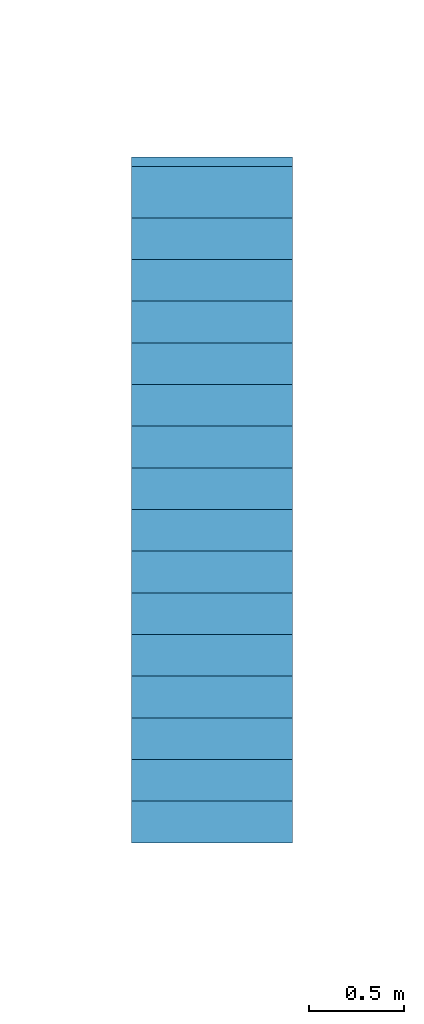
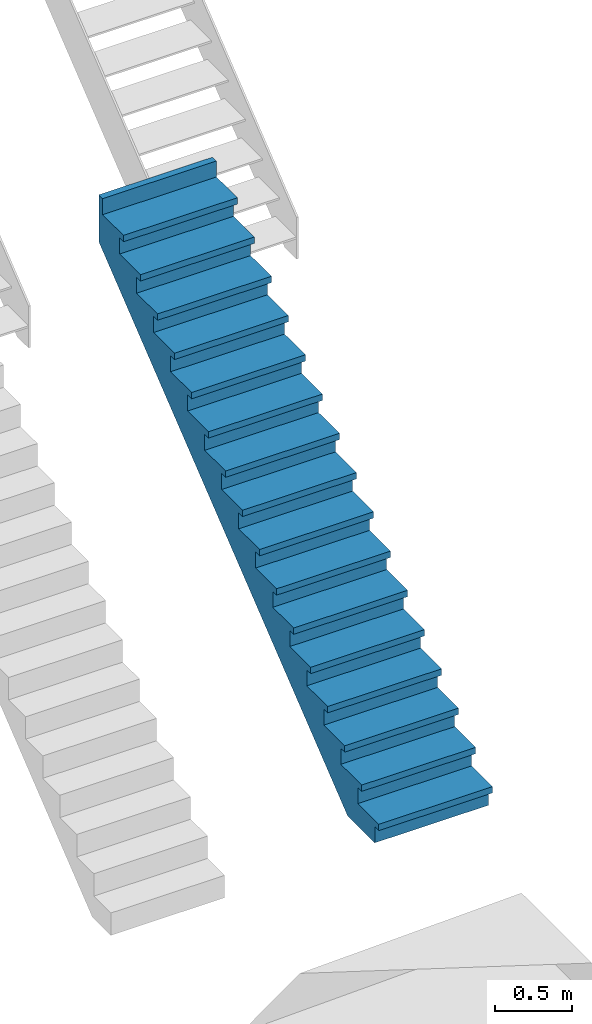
# One storey, part 9 of 13: 1 stair flight, 1 element without a shape of its own.
"""IFC2X3 building model written with IfcOpenShell, lengths in millimetres."""

import ifcopenshell
import ifcopenshell.guid

model = None  # the IFC model being written
_history = None  # IfcOwnerHistory: only IFC2X3 demands one
_inside = {}  # id of a spatial element -> (the spatial element, [elements in it])
_under = {}  # id of a project, library or spatial element -> (it, [spatial elements below it])
_declared = {}  # id of a project -> (the project, [libraries it declares])
_typed = {}  # id of a type object -> (the type object, [elements of that type])
_made_of = {}  # id of a material, layer set ... -> (it, [elements and type objects made of it])


def new_model(schema):
    """Start an empty IFC model of exactly this schema.

    Asked for "IFC4X3", IfcOpenShell would pick the latest addendum, in which some entities
    have other attributes; the version numbers below select the first issue.
    IFC2X3 requires an IfcOwnerHistory on every rooted entity: one is made here for all.
    """
    global model, _history
    if schema == "IFC4X3":
        model = ifcopenshell.file(schema_version=(4, 3, 0, 0))
    else:
        model = ifcopenshell.file(schema=schema)
    _inside.clear()
    _under.clear()
    _declared.clear()
    _typed.clear()
    _made_of.clear()
    _history = None
    if model.schema == "IFC2X3":
        org = make("IfcOrganization", Name="unknown")
        user = make(
            "IfcPersonAndOrganization",
            ThePerson=make("IfcPerson", FamilyName="unknown"),
            TheOrganization=org,
        )
        app = make(
            "IfcApplication",
            ApplicationDeveloper=org,
            Version="unknown",
            ApplicationFullName="unknown",
            ApplicationIdentifier="unknown",
        )
        _history = make(
            "IfcOwnerHistory",
            OwningUser=user,
            OwningApplication=app,
            ChangeAction="ADDED",
            CreationDate=0,
        )
    return model


def make(cls, **values):
    """One entity of the class cls with the attributes given. An attribute that is None is left unset."""
    return model.create_entity(
        cls, **{name: value for name, value in values.items() if value is not None}
    )


def entity(cls, *values):
    """Any entity or typed value of the class cls, its attributes in the order of the schema. None: left unset."""
    e = model.create_entity(cls)
    for i, value in enumerate(values):
        if value is not None:
            e[i] = value
    return e


def rooted(cls, **values):
    """An entity with a GlobalId (a new one), such as an element, a storey or a relation."""
    return make(cls, GlobalId=ifcopenshell.guid.new(), OwnerHistory=_history, **values)


def si_unit(unit_type, name, prefix=None):
    """IfcSIUnit, for example si_unit("LENGTHUNIT", "METRE", prefix="MILLI")."""
    return make("IfcSIUnit", UnitType=unit_type, Prefix=prefix, Name=name)


def converted_unit(unit_type, name, factor, base, dimensions=None, offset=None):
    """IfcConversionBasedUnit, such as the inch: factor (a typed value) times the base unit."""
    return make(
        "IfcConversionBasedUnit"
        if offset is None
        else "IfcConversionBasedUnitWithOffset",
        ConversionOffset=offset,
        Dimensions=None
        if dimensions is None
        else entity("IfcDimensionalExponents", *dimensions),
        UnitType=unit_type,
        Name=name,
        ConversionFactor=make(
            "IfcMeasureWithUnit", ValueComponent=factor, UnitComponent=base
        ),
    )


def derived_unit(unit_type, elements):
    """IfcDerivedUnit: a product of units, each with its exponent."""
    return make(
        "IfcDerivedUnit",
        Elements=[
            make("IfcDerivedUnitElement", Unit=unit, Exponent=power)
            for unit, power in elements
        ],
        UnitType=unit_type,
    )


def assignment(units):
    """IfcUnitAssignment: the units of a project."""
    return None if units is None else make("IfcUnitAssignment", Units=units)


def point(xyz):
    """IfcCartesianPoint."""
    return None if xyz is None else make("IfcCartesianPoint", Coordinates=xyz)


def direction(xyz):
    """IfcDirection."""
    return None if xyz is None else make("IfcDirection", DirectionRatios=xyz)


def frame(location, z_axis=None, x_axis=None):
    """IfcAxis2Placement3D, a coordinate frame: its origin and axes. An axis left out is left unset."""
    return make(
        "IfcAxis2Placement3D",
        Location=point(location),
        Axis=direction(z_axis),
        RefDirection=direction(x_axis),
    )


def origin():
    """The frame at (0, 0, 0) with its axes left unset."""
    return frame((0.0, 0.0, 0.0))


def place(relative_to, where):
    """IfcLocalPlacement: puts the frame where relative to a parent placement (None: the world)."""
    return make(
        "IfcLocalPlacement", PlacementRelTo=relative_to, RelativePlacement=where
    )


def context(
    kind, dimensions, precision=None, world=None, true_north=None, identifier=None
):
    """IfcGeometricRepresentationContext, for example the 3D "Model" context."""
    return make(
        "IfcGeometricRepresentationContext",
        ContextIdentifier=identifier,
        ContextType=kind,
        CoordinateSpaceDimension=dimensions,
        Precision=precision,
        WorldCoordinateSystem=world,
        TrueNorth=true_north,
    )


def subcontext(parent, identifier, kind, view, scale=None):
    """IfcGeometricRepresentationSubContext, for example "Body" below "Model"."""
    return make(
        "IfcGeometricRepresentationSubContext",
        ContextIdentifier=identifier,
        ContextType=kind,
        ParentContext=parent,
        TargetScale=scale,
        TargetView=view,
    )


def project(units=None, contexts=None):
    """IfcProject with its units and contexts."""
    return rooted(
        "IfcProject",
        Name="project",
        RepresentationContexts=contexts,
        UnitsInContext=assignment(units),
    )


def spatial(cls, under=None, at=None, **own):
    """A site, building, storey or space (cls), placed at a placement, below another one or the project."""
    s = rooted(cls, ObjectPlacement=at, **own)
    if under is not None:
        _under.setdefault(under.id(), (under, []))[1].append(s)
    return s


def faces_of(points, faces, orient=None, outer=None):
    """IfcFace entities. A face is a list of loops; a loop is a list of indices into points, from 0.

    orient and outer hold one flag for each loop. By default every Orientation is true, the
    first loop of a face is its IfcFaceOuterBound and the others are IfcFaceBound.
    """
    made = []
    for i, loops in enumerate(faces):
        bounds = []
        for j, loop in enumerate(loops):
            is_outer = j == 0 if outer is None else outer[i][j]
            bounds.append(
                make(
                    "IfcFaceOuterBound" if is_outer else "IfcFaceBound",
                    Bound=make("IfcPolyLoop", Polygon=[points[k] for k in loop]),
                    Orientation=True if orient is None else orient[i][j],
                )
            )
        made.append(make("IfcFace", Bounds=bounds))
    return made


def faceted_brep(points, faces, orient=None, outer=None, voids=None):
    """IfcFacetedBrep: a solid bounded by flat faces; with voids (closed shells), ...WithVoids."""
    shared = [point(p) for p in points]
    hull = make("IfcClosedShell", CfsFaces=faces_of(shared, faces, orient, outer))
    if voids is None:
        return make("IfcFacetedBrep", Outer=hull)
    return make(
        "IfcFacetedBrepWithVoids",
        Outer=hull,
        Voids=[
            make(cls, CfsFaces=faces_of(shared, fs, o, b)) for cls, fs, o, b in voids
        ],
    )


def shape(context_of_items, identifier, shape_type, items):
    """IfcShapeRepresentation: the items that make up one representation, for example the "Body"."""
    return make(
        "IfcShapeRepresentation",
        ContextOfItems=context_of_items,
        RepresentationIdentifier=identifier,
        RepresentationType=shape_type,
        Items=items,
    )


def material(Name=None, Category=None):
    """IfcMaterial."""
    return make("IfcMaterial", Name=Name, Category=Category)


def made_of(thing, what):
    """Note that an element or type object is made of a material, layer set ...; save() writes the relation."""
    if what is not None:
        _made_of.setdefault(what.id(), (what, []))[1].append(thing)
    return thing


def element(
    cls,
    number,
    at=None,
    inside=None,
    cuts=None,
    type_object=None,
    material=None,
    context=None,
    identifier="Body",
    shape_type=None,
    held_by="IfcProductDefinitionShape",
    body=None,
    shapes=None,
    **own,
):
    """One element of the class cls, such as IfcWall. Its Tag is "e" and its number.

    at: its placement. inside: the storey or other place that contains it. cuts: it is an
    opening in that element (IfcRelVoidsElement). A single representation is given by context,
    identifier, shape_type and body (its items); several are given by shapes. held_by: the class
    of the entity that holds the representations. save() writes the other relations.
    """
    e = rooted(cls, Tag="e%d" % number, ObjectPlacement=at, **own)
    if body is not None:
        shapes = [shape(context, identifier, shape_type, body)]
    if shapes is not None:
        e.Representation = make(held_by, Representations=shapes)
    if inside is not None:
        _inside.setdefault(inside.id(), (inside, []))[1].append(e)
    if cuts is not None:
        rooted(
            "IfcRelVoidsElement", RelatingBuildingElement=cuts, RelatedOpeningElement=e
        )
    if type_object is not None:
        _typed.setdefault(type_object.id(), (type_object, []))[1].append(e)
    return made_of(e, material)


def aggregate(whole, parts):
    """IfcRelAggregates: a whole, such as a stair, and the parts it consists of."""
    return rooted("IfcRelAggregates", RelatingObject=whole, RelatedObjects=parts)


def save(model, path):
    """Write the relations noted so far, then the file.

    IfcRelAggregates (storeys below a building ...), IfcRelContainedInSpatialStructure (elements
    in a storey), IfcRelDefinesByType, IfcRelAssociatesMaterial and IfcRelDeclares: one each for
    every whole, place, type object, material and project.
    """
    for whole, parts in _under.values():
        aggregate(whole, parts)
    for where, things in _inside.values():
        rooted(
            "IfcRelContainedInSpatialStructure",
            RelatedElements=things,
            RelatingStructure=where,
        )
    for kind, things in _typed.values():
        rooted("IfcRelDefinesByType", RelatedObjects=things, RelatingType=kind)
    for what, things in _made_of.values():
        rooted("IfcRelAssociatesMaterial", RelatedObjects=things, RelatingMaterial=what)
    for by, libraries in _declared.values():
        rooted("IfcRelDeclares", RelatingContext=by, RelatedDefinitions=libraries)
    model.write(path)


model = new_model("IFC2X3")

# Units and contexts
model_context = context("Model", 3, precision=0.01, world=origin(), true_north=direction((6.12303176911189e-17, 1.0)))
body_context = subcontext(model_context, "Body", "Model", "MODEL_VIEW")
ifc_project = project(units=[si_unit("LENGTHUNIT", "METRE", prefix="MILLI"), si_unit("AREAUNIT", "SQUARE_METRE"), si_unit("VOLUMEUNIT", "CUBIC_METRE"), converted_unit("PLANEANGLEUNIT", "DEGREE", entity("IfcRatioMeasure", 0.0174532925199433), si_unit("PLANEANGLEUNIT", "RADIAN"), dimensions=[0, 0, 0, 0, 0, 0, 0]), si_unit("MASSUNIT", "GRAM", prefix="KILO"), si_unit("TIMEUNIT", "SECOND"), si_unit("FREQUENCYUNIT", "HERTZ"), si_unit("THERMODYNAMICTEMPERATUREUNIT", "KELVIN"), derived_unit("THERMALTRANSMITTANCEUNIT", [(si_unit("MASSUNIT", "GRAM", prefix="KILO"), 1), (si_unit("THERMODYNAMICTEMPERATUREUNIT", "KELVIN"), -1), (si_unit("TIMEUNIT", "SECOND"), -3)]), derived_unit("VOLUMETRICFLOWRATEUNIT", [(si_unit("LENGTHUNIT", "METRE"), 3), (si_unit("TIMEUNIT", "SECOND"), -1)]), si_unit("ELECTRICCURRENTUNIT", "AMPERE"), si_unit("ELECTRICVOLTAGEUNIT", "VOLT"), si_unit("POWERUNIT", "WATT")], contexts=[model_context])

# Site, building, storey
site_placement = place(None, origin())
site = spatial("IfcSite", under=ifc_project, at=site_placement, Name="Surface", CompositionType="ELEMENT")
building_placement = place(site_placement, origin())
building = spatial("IfcBuilding", under=site, at=building_placement, CompositionType="ELEMENT")
storey_placement = place(building_placement, origin())
storey = spatial("IfcBuildingStorey", under=building, at=storey_placement, Name="00_begane grond", CompositionType="ELEMENT", Elevation=0.0)

# Stair, stair flight
stair_placement = place(storey_placement, origin())
stair = element("IfcStair", 1, at=stair_placement, inside=storey, Name="Precast Stair:Stair", ShapeType="NOTDEFINED")
ifc_material = material(Name="24_beton_prefab_generiek")
stair_flight_placement = place(stair_placement, frame((27349.8089026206, -31324.6322235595, 0.0)))
stair_flight = element("IfcStairFlight", 2, at=stair_flight_placement, material=ifc_material, Name="Precast Stair:Stair:69326 Run 1", ObjectType="Precast Stair:24_ST_trap_beton_prefab_monolitisch_850_220_185", NumberOfRiser=17, NumberOfTreads=16, RiserHeight=0.578971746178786, TreadLength=0.721784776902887, context=body_context, shape_type="Brep", body=[
    faceted_brep([(0.0, 270.0, 176.470588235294), (0.0, 0.0, 176.470588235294), (850.0, 0.0, 176.470588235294), (850.0, 270.0, 176.470588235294), (850.0, 0.0, 126.470588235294), (0.0, 0.0, 126.470588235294), (0.0, 50.0, 126.470588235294), (850.0, 50.0, 126.470588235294), (850.0, 50.0, 0.0), (850.0, 100.0, 0.0), (850.0, 100.0, 126.470588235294), (850.0, 320.0, 126.470588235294), (850.0, 320.0, 302.941176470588), (850.0, 540.0, 302.941176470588), (850.0, 540.0, 479.411764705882), (850.0, 760.0, 479.411764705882), (850.0, 760.0, 655.882352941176), (850.0, 980.0, 655.882352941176), (850.0, 980.0, 832.35294117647), (850.0, 1200.0, 832.35294117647), (850.0, 1200.0, 1008.82352941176), (850.0, 1420.0, 1008.82352941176), (850.0, 1420.0, 1185.29411764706), (850.0, 1640.0, 1185.29411764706), (850.0, 1640.0, 1361.76470588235), (850.0, 1860.0, 1361.76470588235), (850.0, 1860.0, 1538.23529411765), (850.0, 2080.0, 1538.23529411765), (850.0, 2080.0, 1714.70588235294), (850.0, 2300.0, 1714.70588235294), (850.0, 2300.0, 1891.17647058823), (850.0, 2520.0, 1891.17647058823), (850.0, 2520.0, 2067.64705882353), (850.0, 2740.0, 2067.64705882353), (850.0, 2740.0, 2244.11764705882), (850.0, 2960.0, 2244.11764705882), (850.0, 2960.0, 2420.58823529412), (850.0, 3180.0, 2420.58823529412), (850.0, 3180.0, 2597.05882352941), (850.0, 3400.0, 2597.05882352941), (850.0, 3400.0, 2773.5294117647), (850.0, 3620.0, 2773.5294117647), (850.0, 3620.0, 2950.0), (850.0, 3570.0, 2950.0), (850.0, 3570.0, 2823.5294117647), (850.0, 3300.0, 2823.5294117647), (850.0, 3300.0, 2773.5294117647), (850.0, 3350.0, 2773.5294117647), (850.0, 3350.0, 2647.05882352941), (850.0, 3080.0, 2647.05882352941), (850.0, 3080.0, 2597.05882352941), (850.0, 3130.0, 2597.05882352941), (850.0, 3130.0, 2470.58823529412), (850.0, 2860.0, 2470.58823529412), (850.0, 2860.0, 2420.58823529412), (850.0, 2910.0, 2420.58823529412), (850.0, 2910.0, 2294.11764705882), (850.0, 2640.0, 2294.11764705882), (850.0, 2640.0, 2244.11764705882), (850.0, 2690.0, 2244.11764705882), (850.0, 2690.0, 2117.64705882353), (850.0, 2420.0, 2117.64705882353), (850.0, 2420.0, 2067.64705882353), (850.0, 2470.0, 2067.64705882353), (850.0, 2470.0, 1941.17647058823), (850.0, 2200.0, 1941.17647058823), (850.0, 2200.0, 1891.17647058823), (850.0, 2250.0, 1891.17647058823), (850.0, 2250.0, 1764.70588235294), (850.0, 1980.0, 1764.70588235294), (850.0, 1980.0, 1714.70588235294), (850.0, 2030.0, 1714.70588235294), (850.0, 2030.0, 1588.23529411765), (850.0, 1760.0, 1588.23529411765), (850.0, 1760.0, 1538.23529411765), (850.0, 1810.0, 1538.23529411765), (850.0, 1810.0, 1411.76470588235), (850.0, 1540.0, 1411.76470588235), (850.0, 1540.0, 1361.76470588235), (850.0, 1590.0, 1361.76470588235), (850.0, 1590.0, 1235.29411764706), (850.0, 1320.0, 1235.29411764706), (850.0, 1320.0, 1185.29411764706), (850.0, 1370.0, 1185.29411764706), (850.0, 1370.0, 1058.82352941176), (850.0, 1100.0, 1058.82352941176), (850.0, 1100.0, 1008.82352941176), (850.0, 1150.0, 1008.82352941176), (850.0, 1150.0, 882.35294117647), (850.0, 880.0, 882.35294117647), (850.0, 880.0, 832.35294117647), (850.0, 930.0, 832.35294117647), (850.0, 930.0, 705.882352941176), (850.0, 660.0, 705.882352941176), (850.0, 660.0, 655.882352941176), (850.0, 710.0, 655.882352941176), (850.0, 710.0, 529.411764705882), (850.0, 440.0, 529.411764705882), (850.0, 440.0, 479.411764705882), (850.0, 490.0, 479.411764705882), (850.0, 490.0, 352.941176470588), (850.0, 220.0, 352.941176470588), (850.0, 220.0, 302.941176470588), (850.0, 270.0, 302.941176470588), (0.0, 50.0, 0.0), (0.0, 270.0, 302.941176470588), (0.0, 220.0, 302.941176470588), (0.0, 220.0, 352.941176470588), (0.0, 490.0, 352.941176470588), (0.0, 490.0, 479.411764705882), (0.0, 440.0, 479.411764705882), (0.0, 440.0, 529.411764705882), (0.0, 710.0, 529.411764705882), (0.0, 710.0, 655.882352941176), (0.0, 660.0, 655.882352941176), (0.0, 660.0, 705.882352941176), (0.0, 930.0, 705.882352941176), (0.0, 930.0, 832.35294117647), (0.0, 880.0, 832.35294117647), (0.0, 880.0, 882.35294117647), (0.0, 1150.0, 882.35294117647), (0.0, 1150.0, 1008.82352941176), (0.0, 1100.0, 1008.82352941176), (0.0, 1100.0, 1058.82352941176), (0.0, 1370.0, 1058.82352941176), (0.0, 1370.0, 1185.29411764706), (0.0, 1320.0, 1185.29411764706), (0.0, 1320.0, 1235.29411764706), (0.0, 1590.0, 1235.29411764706), (0.0, 1590.0, 1361.76470588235), (0.0, 1540.0, 1361.76470588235), (0.0, 1540.0, 1411.76470588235), (0.0, 1810.0, 1411.76470588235), (0.0, 1810.0, 1538.23529411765), (0.0, 1760.0, 1538.23529411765), (0.0, 1760.0, 1588.23529411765), (0.0, 2030.0, 1588.23529411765), (0.0, 2030.0, 1714.70588235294), (0.0, 1980.0, 1714.70588235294), (0.0, 1980.0, 1764.70588235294), (0.0, 2250.0, 1764.70588235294), (0.0, 2250.0, 1891.17647058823), (0.0, 2200.0, 1891.17647058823), (0.0, 2200.0, 1941.17647058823), (0.0, 2470.0, 1941.17647058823), (0.0, 2470.0, 2067.64705882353), (0.0, 2420.0, 2067.64705882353), (0.0, 2420.0, 2117.64705882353), (0.0, 2690.0, 2117.64705882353), (0.0, 2690.0, 2244.11764705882), (0.0, 2640.0, 2244.11764705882), (0.0, 2640.0, 2294.11764705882), (0.0, 2910.0, 2294.11764705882), (0.0, 2910.0, 2420.58823529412), (0.0, 2860.0, 2420.58823529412), (0.0, 2860.0, 2470.58823529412), (0.0, 3130.0, 2470.58823529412), (0.0, 3130.0, 2597.05882352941), (0.0, 3080.0, 2597.05882352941), (0.0, 3080.0, 2647.05882352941), (0.0, 3350.0, 2647.05882352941), (0.0, 3350.0, 2773.5294117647), (0.0, 3300.0, 2773.5294117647), (0.0, 3300.0, 2823.5294117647), (0.0, 3570.0, 2823.5294117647), (0.0, 3570.0, 2950.0), (0.0, 3620.0, 2950.0), (0.0, 3620.0, 2773.5294117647), (0.0, 3400.0, 2773.5294117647), (0.0, 3400.0, 2597.05882352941), (0.0, 3180.0, 2597.05882352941), (0.0, 3180.0, 2420.58823529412), (0.0, 2960.0, 2420.58823529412), (0.0, 2960.0, 2244.11764705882), (0.0, 2740.0, 2244.11764705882), (0.0, 2740.0, 2067.64705882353), (0.0, 2520.0, 2067.64705882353), (0.0, 2520.0, 1891.17647058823), (0.0, 2300.0, 1891.17647058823), (0.0, 2300.0, 1714.70588235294), (0.0, 2080.0, 1714.70588235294), (0.0, 2080.0, 1538.23529411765), (0.0, 1860.0, 1538.23529411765), (0.0, 1860.0, 1361.76470588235), (0.0, 1640.0, 1361.76470588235), (0.0, 1640.0, 1185.29411764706), (0.0, 1420.0, 1185.29411764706), (0.0, 1420.0, 1008.82352941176), (0.0, 1200.0, 1008.82352941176), (0.0, 1200.0, 832.35294117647), (0.0, 980.0, 832.35294117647), (0.0, 980.0, 655.882352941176), (0.0, 760.0, 655.882352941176), (0.0, 760.0, 479.411764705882), (0.0, 540.0, 479.411764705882), (0.0, 540.0, 302.941176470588), (0.0, 320.0, 302.941176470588), (0.0, 320.0, 126.470588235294), (0.0, 100.0, 126.470588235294), (0.0, 100.0, 0.0)], [[[0, 1, 2, 3]], [[4, 5, 6, 7]], [[2, 1, 5, 4]], [[7, 8, 9, 10, 11, 12, 13, 14, 15, 16, 17, 18, 19, 20, 21, 22, 23, 24, 25, 26, 27, 28, 29, 30, 31, 32, 33, 34, 35, 36, 37, 38, 39, 40, 41, 42, 43, 44, 45, 46, 47, 48, 49, 50, 51, 52, 53, 54, 55, 56, 57, 58, 59, 60, 61, 62, 63, 64, 65, 66, 67, 68, 69, 70, 71, 72, 73, 74, 75, 76, 77, 78, 79, 80, 81, 82, 83, 84, 85, 86, 87, 88, 89, 90, 91, 92, 93, 94, 95, 96, 97, 98, 99, 100, 101, 102, 103, 3, 2, 4]], [[104, 6, 5, 1, 0, 105, 106, 107, 108, 109, 110, 111, 112, 113, 114, 115, 116, 117, 118, 119, 120, 121, 122, 123, 124, 125, 126, 127, 128, 129, 130, 131, 132, 133, 134, 135, 136, 137, 138, 139, 140, 141, 142, 143, 144, 145, 146, 147, 148, 149, 150, 151, 152, 153, 154, 155, 156, 157, 158, 159, 160, 161, 162, 163, 164, 165, 166, 167, 168, 169, 170, 171, 172, 173, 174, 175, 176, 177, 178, 179, 180, 181, 182, 183, 184, 185, 186, 187, 188, 189, 190, 191, 192, 193, 194, 195, 196, 197, 198, 199]], [[8, 7, 6, 104]], [[9, 8, 104, 199]], [[10, 9, 199, 198]], [[108, 107, 101, 100]], [[102, 106, 105, 103]], [[101, 107, 106, 102]], [[105, 0, 3, 103]], [[12, 11, 197, 196]], [[112, 111, 97, 96]], [[98, 110, 109, 99]], [[97, 111, 110, 98]], [[109, 108, 100, 99]], [[14, 13, 195, 194]], [[116, 115, 93, 92]], [[94, 114, 113, 95]], [[93, 115, 114, 94]], [[113, 112, 96, 95]], [[16, 15, 193, 192]], [[120, 119, 89, 88]], [[90, 118, 117, 91]], [[89, 119, 118, 90]], [[117, 116, 92, 91]], [[18, 17, 191, 190]], [[124, 123, 85, 84]], [[86, 122, 121, 87]], [[85, 123, 122, 86]], [[121, 120, 88, 87]], [[20, 19, 189, 188]], [[128, 127, 81, 80]], [[82, 126, 125, 83]], [[81, 127, 126, 82]], [[125, 124, 84, 83]], [[22, 21, 187, 186]], [[132, 131, 77, 76]], [[78, 130, 129, 79]], [[77, 131, 130, 78]], [[129, 128, 80, 79]], [[24, 23, 185, 184]], [[136, 135, 73, 72]], [[74, 134, 133, 75]], [[73, 135, 134, 74]], [[133, 132, 76, 75]], [[26, 25, 183, 182]], [[140, 139, 69, 68]], [[70, 138, 137, 71]], [[69, 139, 138, 70]], [[137, 136, 72, 71]], [[28, 27, 181, 180]], [[144, 143, 65, 64]], [[66, 142, 141, 67]], [[65, 143, 142, 66]], [[141, 140, 68, 67]], [[30, 29, 179, 178]], [[148, 147, 61, 60]], [[62, 146, 145, 63]], [[61, 147, 146, 62]], [[145, 144, 64, 63]], [[32, 31, 177, 176]], [[152, 151, 57, 56]], [[58, 150, 149, 59]], [[57, 151, 150, 58]], [[149, 148, 60, 59]], [[34, 33, 175, 174]], [[156, 155, 53, 52]], [[54, 154, 153, 55]], [[53, 155, 154, 54]], [[153, 152, 56, 55]], [[36, 35, 173, 172]], [[160, 159, 49, 48]], [[50, 158, 157, 51]], [[49, 159, 158, 50]], [[157, 156, 52, 51]], [[38, 37, 171, 170]], [[164, 163, 45, 44]], [[45, 163, 162, 46]], [[161, 160, 48, 47]], [[40, 39, 169, 168]], [[43, 165, 164, 44]], [[41, 40, 168, 167]], [[42, 41, 167, 166]], [[43, 42, 166, 165]], [[46, 162, 161, 47]], [[38, 170, 169, 39]], [[36, 172, 171, 37]], [[34, 174, 173, 35]], [[32, 176, 175, 33]], [[30, 178, 177, 31]], [[28, 180, 179, 29]], [[26, 182, 181, 27]], [[24, 184, 183, 25]], [[22, 186, 185, 23]], [[20, 188, 187, 21]], [[18, 190, 189, 19]], [[16, 192, 191, 17]], [[14, 194, 193, 15]], [[12, 196, 195, 13]], [[10, 198, 197, 11]]]),
    faceted_brep([(0.0, 320.0, 126.470588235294), (0.0, 100.0, 126.470588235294), (850.0, 100.0, 126.470588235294), (850.0, 320.0, 126.470588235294), (0.0, 320.0, 0.0), (0.0, 100.0, 0.0), (850.0, 100.0, 0.0), (850.0, 320.0, 0.0), (0.0, 540.0, 302.941176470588), (0.0, 320.0, 302.941176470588), (850.0, 320.0, 302.941176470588), (850.0, 540.0, 302.941176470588), (0.0, 540.0, 110.646849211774), (0.0, 402.060261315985, 0.0), (850.0, 402.060261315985, 0.0), (850.0, 540.0, 110.646849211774), (0.0, 760.0, 479.411764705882), (0.0, 540.0, 479.411764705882), (850.0, 540.0, 479.411764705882), (850.0, 760.0, 479.411764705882), (0.0, 760.0, 287.117437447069), (850.0, 760.0, 287.117437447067), (0.0, 980.0, 655.882352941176), (0.0, 760.0, 655.882352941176), (850.0, 760.0, 655.882352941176), (850.0, 980.0, 655.882352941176), (0.0, 980.0, 463.58802568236), (850.0, 980.0, 463.588025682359), (0.0, 1200.0, 832.35294117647), (0.0, 980.0, 832.35294117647), (850.0, 980.0, 832.35294117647), (850.0, 1200.0, 832.35294117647), (0.0, 1200.0, 640.058613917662), (850.0, 1200.0, 640.058613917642), (0.0, 1420.0, 1008.82352941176), (0.0, 1200.0, 1008.82352941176), (850.0, 1200.0, 1008.82352941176), (850.0, 1420.0, 1008.82352941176), (0.0, 1420.0, 816.529202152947), (850.0, 1420.0, 816.529202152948), (0.0, 1640.0, 1185.29411764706), (0.0, 1420.0, 1185.29411764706), (850.0, 1420.0, 1185.29411764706), (850.0, 1640.0, 1185.29411764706), (0.0, 1640.0, 992.999790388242), (850.0, 1640.0, 992.99979038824), (0.0, 1860.0, 1361.76470588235), (0.0, 1640.0, 1361.76470588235), (850.0, 1640.0, 1361.76470588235), (850.0, 1860.0, 1361.76470588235), (0.0, 1860.0, 1169.47037862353), (850.0, 1860.0, 1169.47037862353), (0.0, 2080.0, 1538.23529411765), (0.0, 1860.0, 1538.23529411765), (850.0, 1860.0, 1538.23529411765), (850.0, 2080.0, 1538.23529411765), (0.0, 2080.0, 1345.94096685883), (850.0, 2080.0, 1345.94096685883), (0.0, 2300.0, 1714.70588235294), (0.0, 2080.0, 1714.70588235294), (850.0, 2080.0, 1714.70588235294), (850.0, 2300.0, 1714.70588235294), (0.0, 2300.0, 1522.41155509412), (850.0, 2300.0, 1522.41155509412), (0.0, 2520.0, 1891.17647058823), (0.0, 2300.0, 1891.17647058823), (850.0, 2300.0, 1891.17647058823), (850.0, 2520.0, 1891.17647058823), (0.0, 2520.0, 1698.88214332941), (850.0, 2520.0, 1698.88214332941), (0.0, 2740.0, 2067.64705882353), (0.0, 2520.0, 2067.64705882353), (850.0, 2520.0, 2067.64705882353), (850.0, 2740.0, 2067.64705882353), (0.0, 2740.0, 1875.35273156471), (850.0, 2740.0, 1875.35273156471), (0.0, 2960.0, 2244.11764705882), (0.0, 2740.0, 2244.11764705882), (850.0, 2740.0, 2244.11764705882), (850.0, 2960.0, 2244.11764705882), (0.0, 2960.0, 2051.8233198), (850.0, 2960.0, 2051.8233198), (0.0, 3180.0, 2420.58823529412), (0.0, 2960.0, 2420.58823529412), (850.0, 2960.0, 2420.58823529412), (850.0, 3180.0, 2420.58823529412), (0.0, 3180.0, 2228.2939080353), (850.0, 3180.0, 2228.29390803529), (0.0, 3400.0, 2597.05882352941), (0.0, 3180.0, 2597.05882352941), (850.0, 3180.0, 2597.05882352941), (850.0, 3400.0, 2597.05882352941), (0.0, 3400.0, 2404.76449627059), (850.0, 3400.0, 2404.76449627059), (0.0, 3620.0, 2773.5294117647), (0.0, 3400.0, 2773.5294117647), (850.0, 3400.0, 2773.5294117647), (850.0, 3620.0, 2773.5294117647), (0.0, 3620.0, 2581.23508450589), (850.0, 3620.0, 2581.23508450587)], [[[0, 1, 2, 3]], [[1, 0, 4, 5]], [[2, 1, 5, 6]], [[3, 2, 6, 7]], [[8, 9, 10, 11]], [[4, 0, 9, 8, 12, 13]], [[0, 3, 10, 9]], [[3, 7, 14, 15, 11, 10]], [[16, 17, 18, 19]], [[17, 16, 20, 12, 8]], [[8, 11, 18, 17]], [[19, 18, 11, 15, 21]], [[22, 23, 24, 25]], [[23, 22, 26, 20, 16]], [[16, 19, 24, 23]], [[25, 24, 19, 21, 27]], [[28, 29, 30, 31]], [[29, 28, 32, 26, 22]], [[22, 25, 30, 29]], [[31, 30, 25, 27, 33]], [[34, 35, 36, 37]], [[35, 34, 38, 32, 28]], [[28, 31, 36, 35]], [[37, 36, 31, 33, 39]], [[40, 41, 42, 43]], [[41, 40, 44, 38, 34]], [[34, 37, 42, 41]], [[43, 42, 37, 39, 45]], [[46, 47, 48, 49]], [[47, 46, 50, 44, 40]], [[40, 43, 48, 47]], [[49, 48, 43, 45, 51]], [[52, 53, 54, 55]], [[53, 52, 56, 50, 46]], [[46, 49, 54, 53]], [[55, 54, 49, 51, 57]], [[58, 59, 60, 61]], [[59, 58, 62, 56, 52]], [[52, 55, 60, 59]], [[61, 60, 55, 57, 63]], [[64, 65, 66, 67]], [[65, 64, 68, 62, 58]], [[58, 61, 66, 65]], [[67, 66, 61, 63, 69]], [[70, 71, 72, 73]], [[71, 70, 74, 68, 64]], [[64, 67, 72, 71]], [[73, 72, 67, 69, 75]], [[76, 77, 78, 79]], [[77, 76, 80, 74, 70]], [[70, 73, 78, 77]], [[79, 78, 73, 75, 81]], [[82, 83, 84, 85]], [[83, 82, 86, 80, 76]], [[76, 79, 84, 83]], [[85, 84, 79, 81, 87]], [[88, 89, 90, 91]], [[89, 88, 92, 86, 82]], [[82, 85, 90, 89]], [[91, 90, 85, 87, 93]], [[94, 95, 96, 97]], [[95, 94, 98, 92, 88]], [[88, 91, 96, 95]], [[97, 96, 91, 93, 99]], [[94, 97, 99, 98]], [[5, 4, 13, 14, 7, 6]], [[14, 13, 12, 20, 26, 32, 38, 44, 50, 56, 62, 68, 74, 80, 86, 92, 98, 99, 93, 87, 81, 75, 69, 63, 57, 51, 45, 39, 33, 27, 21, 15]]]),
])
aggregate(stair, [stair_flight])

save(model, "model.ifc")
